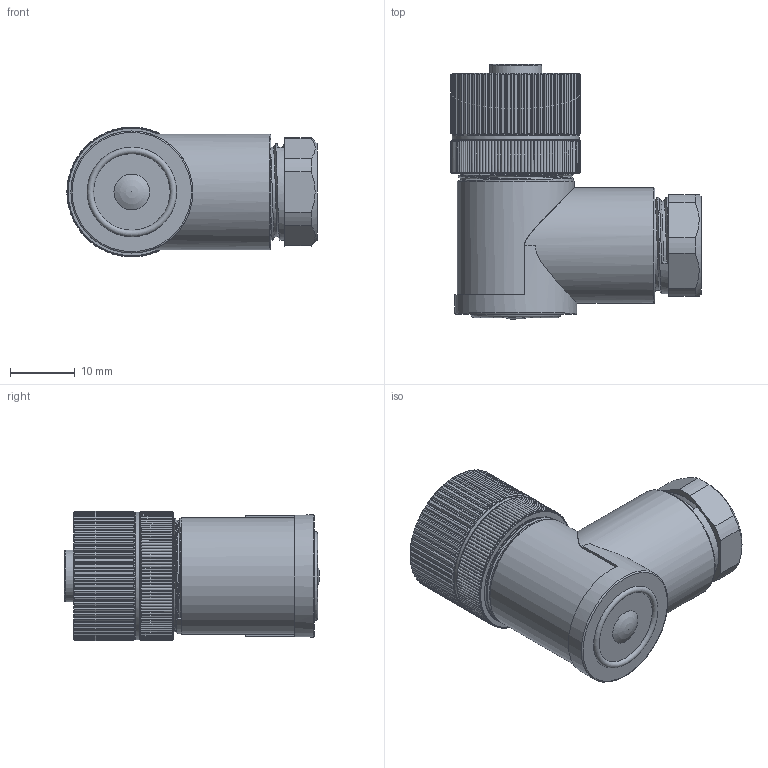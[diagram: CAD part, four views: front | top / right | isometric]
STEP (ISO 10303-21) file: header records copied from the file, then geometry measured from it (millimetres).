
FILE_DESCRIPTION(/* description */ (''),/* implementation_level */ '2;1');
FILE_NAME(/* name */ 'M12-4FR-PG9_stp.stp',/* time_stamp */ '2024-08-14T09:50:19+08:00',/* author */ (''),/* organization */ (''),/* preprocessor_version */ 'ST-DEVELOPER v16.7',/* originating_system */ 'SIEMENS PLM Software NX 12.0',/* authorisation */ '');
FILE_SCHEMA (('AP203_CONFIGURATION_CONTROLLED_3D_DESIGN_OF_MECHANICAL_PARTS_AND_ASSEMBLIES_MIM_LF { 1 0 10303 403 2 1 2}'));
Length unit declared in the file: millimetre
Products named in the file (1): lyj2EFCE3066naw
Bounding box: 38.54 x 39.3 x 20 mm (x, y, z)
Surface area: 11334 mm2
Topology: 8 solids, 9 shells, 1220 faces, 3016 edges, 1847 vertices
Faces by surface type: cone 412, plane 374, cylinder 369, torus 25, extrusion 25, bspline 13, sphere 2
Full cylindrical faces by diameter (mm): 1 x12, 1.2 x5, 1.3 x8, 1.4 x4, 1.6 x17, 2 x4, 8 x1, 9.2 x1, 9.8 x1, 10 x1, 10.2 x1, 10.7 x1, 11.1 x6, 11.2 x1, 13.2 x1, 13.6 x1, 13.8 x1, 14.2 x3, 14.3 x1, 14.4 x1, 14.7 x1, 15.8 x1, 16.7 x1, 17.8 x1, 18 x1, 18.8 x1, 19.6 x1
Entity records: 50570 total; most frequent: CARTESIAN_POINT 23196, ORIENTED_EDGE 5664, DIRECTION 5618, EDGE_CURVE 2832, AXIS2_PLACEMENT_3D 2295, VERTEX_POINT 1772, EDGE_LOOP 1382, ADVANCED_FACE 1211
